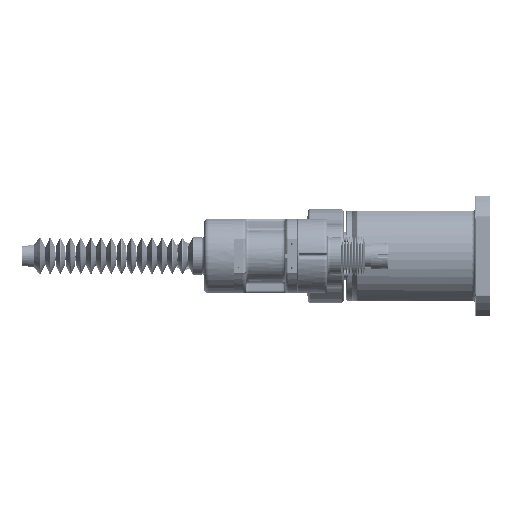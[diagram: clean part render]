
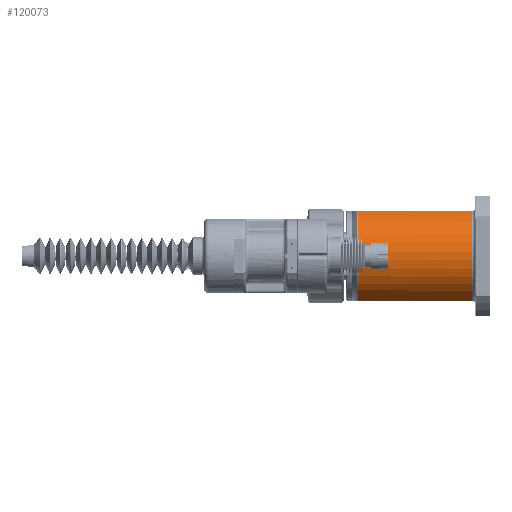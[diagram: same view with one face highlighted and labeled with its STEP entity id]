
A CAD part, left-side view. The second image highlights one B-rep face of the part: STEP entity #120073.
In plain terms, the highlighted cylindrical face has radius 83 mm (diameter 166 mm), a partial arc.
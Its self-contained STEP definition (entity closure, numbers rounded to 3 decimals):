
#141 = CARTESIAN_POINT ( 'NONE',  ( 0., 30., 0. ) ) ;
#559 = ORIENTED_EDGE ( 'NONE', *, *, #123231, .T. ) ;
#2831 = CARTESIAN_POINT ( 'NONE',  ( -37.152, 221.15, -74.221 ) ) ;
#3379 = CARTESIAN_POINT ( 'NONE',  ( -36.589, 221.026, -74.5 ) ) ;
#5290 = EDGE_CURVE ( 'NONE', #83580, #132347, #149241, .T. ) ;
#5855 = LINE ( 'NONE', #106729, #51837 ) ;
#13006 = DIRECTION ( 'NONE',  ( 0., 1., 0. ) ) ;
#14215 = ORIENTED_EDGE ( 'NONE', *, *, #111069, .T. ) ;
#15619 = EDGE_CURVE ( 'NONE', #154939, #138157, #106516, .T. ) ;
#16230 = CARTESIAN_POINT ( 'NONE',  ( -36.312, 220.925, -74.636 ) ) ;
#18526 = VERTEX_POINT ( 'NONE', #144961 ) ;
#20212 = CARTESIAN_POINT ( 'NONE',  ( -36.048, 30., 74.763 ) ) ;
#25038 = B_SPLINE_CURVE_WITH_KNOTS ( 'NONE', 3,
 ( #69943, #158784, #96643, #57615, #58728, #58178 ),
 .UNSPECIFIED., .F., .F.,
 ( 4, 2, 4 ),
 ( 0., 0.001, 0.002 ),
 .UNSPECIFIED. ) ;
#26857 = CARTESIAN_POINT ( 'NONE',  ( -36.048, 220.78, -74.763 ) ) ;
#27258 = AXIS2_PLACEMENT_3D ( 'NONE', #141, #13006, #102402 ) ;
#27895 = AXIS2_PLACEMENT_3D ( 'NONE', #51324, #90337, #128359 ) ;
#28818 = CARTESIAN_POINT ( 'NONE',  ( -37.726, 221.172, 73.931 ) ) ;
#29111 = CARTESIAN_POINT ( 'NONE',  ( -36.048, 220.78, -74.763 ) ) ;
#32798 = CARTESIAN_POINT ( 'NONE',  ( 0., 230., 0. ) ) ;
#35572 = CARTESIAN_POINT ( 'NONE',  ( -36.048, 220.78, 74.763 ) ) ;
#36427 = CARTESIAN_POINT ( 'NONE',  ( -36.048, 230., 74.763 ) ) ;
#38621 = CARTESIAN_POINT ( 'NONE',  ( -37.726, 221.172, -73.931 ) ) ;
#50024 = EDGE_LOOP ( 'NONE', ( #127918, #51838, #559, #130304, #14215, #161677 ) ) ;
#50764 = CYLINDRICAL_SURFACE ( 'NONE', #90381, 83. ) ;
#51324 = CARTESIAN_POINT ( 'NONE',  ( 0., 221.172, 0. ) ) ;
#51837 = VECTOR ( 'NONE', #157664, 1000. ) ;
#51838 = ORIENTED_EDGE ( 'NONE', *, *, #160227, .T. ) ;
#52589 = CARTESIAN_POINT ( 'NONE',  ( -36.176, 220.862, -74.702 ) ) ;
#55769 = CIRCLE ( 'NONE', #27258, 83. ) ;
#57615 = CARTESIAN_POINT ( 'NONE',  ( -37.152, 221.15, 74.221 ) ) ;
#58178 = CARTESIAN_POINT ( 'NONE',  ( -37.726, 221.172, 73.931 ) ) ;
#58728 = CARTESIAN_POINT ( 'NONE',  ( -37.438, 221.172, 74.077 ) ) ;
#66607 = CARTESIAN_POINT ( 'NONE',  ( -37.438, 221.172, -74.078 ) ) ;
#69943 = CARTESIAN_POINT ( 'NONE',  ( -36.048, 220.78, 74.763 ) ) ;
#78362 = CARTESIAN_POINT ( 'NONE',  ( -37.726, 221.172, -73.931 ) ) ;
#83170 = B_SPLINE_CURVE_WITH_KNOTS ( 'NONE', 3,
 ( #78362, #66607, #2831, #144140, #3379, #16230, #52589, #29111 ),
 .UNSPECIFIED., .F., .F.,
 ( 4, 2, 2, 4 ),
 ( 0., 0.001, 0.001, 0.002 ),
 .UNSPECIFIED. ) ;
#83580 = VERTEX_POINT ( 'NONE', #20212 ) ;
#88098 = EDGE_CURVE ( 'NONE', #138157, #98488, #83170, .T. ) ;
#89207 = VECTOR ( 'NONE', #165490, 1000. ) ;
#90337 = DIRECTION ( 'NONE',  ( 0., -1., 0. ) ) ;
#90381 = AXIS2_PLACEMENT_3D ( 'NONE', #32798, #163545, #139414 ) ;
#96643 = CARTESIAN_POINT ( 'NONE',  ( -36.586, 221.035, 74.502 ) ) ;
#98488 = VERTEX_POINT ( 'NONE', #26857 ) ;
#102402 = DIRECTION ( 'NONE',  ( 1., 0., 0. ) ) ;
#102853 = FACE_OUTER_BOUND ( 'NONE', #50024, .T. ) ;
#106516 = CIRCLE ( 'NONE', #27895, 83. ) ;
#106729 = CARTESIAN_POINT ( 'NONE',  ( -36.048, 230., -74.763 ) ) ;
#111069 = EDGE_CURVE ( 'NONE', #132347, #154939, #25038, .T. ) ;
#120073 = ADVANCED_FACE ( 'NONE', ( #102853 ), #50764, .T. ) ;
#123231 = EDGE_CURVE ( 'NONE', #18526, #83580, #55769, .T. ) ;
#127918 = ORIENTED_EDGE ( 'NONE', *, *, #88098, .T. ) ;
#128359 = DIRECTION ( 'NONE',  ( -1., 0., 0. ) ) ;
#130304 = ORIENTED_EDGE ( 'NONE', *, *, #5290, .T. ) ;
#132347 = VERTEX_POINT ( 'NONE', #35572 ) ;
#138157 = VERTEX_POINT ( 'NONE', #38621 ) ;
#139414 = DIRECTION ( 'NONE',  ( -1., 0., 0. ) ) ;
#144140 = CARTESIAN_POINT ( 'NONE',  ( -36.729, 221.064, -74.431 ) ) ;
#144961 = CARTESIAN_POINT ( 'NONE',  ( -36.048, 30., -74.763 ) ) ;
#149241 = LINE ( 'NONE', #36427, #89207 ) ;
#154939 = VERTEX_POINT ( 'NONE', #28818 ) ;
#157664 = DIRECTION ( 'NONE',  ( 0., -1., 0. ) ) ;
#158784 = CARTESIAN_POINT ( 'NONE',  ( -36.302, 220.942, 74.641 ) ) ;
#160227 = EDGE_CURVE ( 'NONE', #98488, #18526, #5855, .T. ) ;
#161677 = ORIENTED_EDGE ( 'NONE', *, *, #15619, .T. ) ;
#163545 = DIRECTION ( 'NONE',  ( 0., 1., 0. ) ) ;
#165490 = DIRECTION ( 'NONE',  ( 0., 1., 0. ) ) ;
